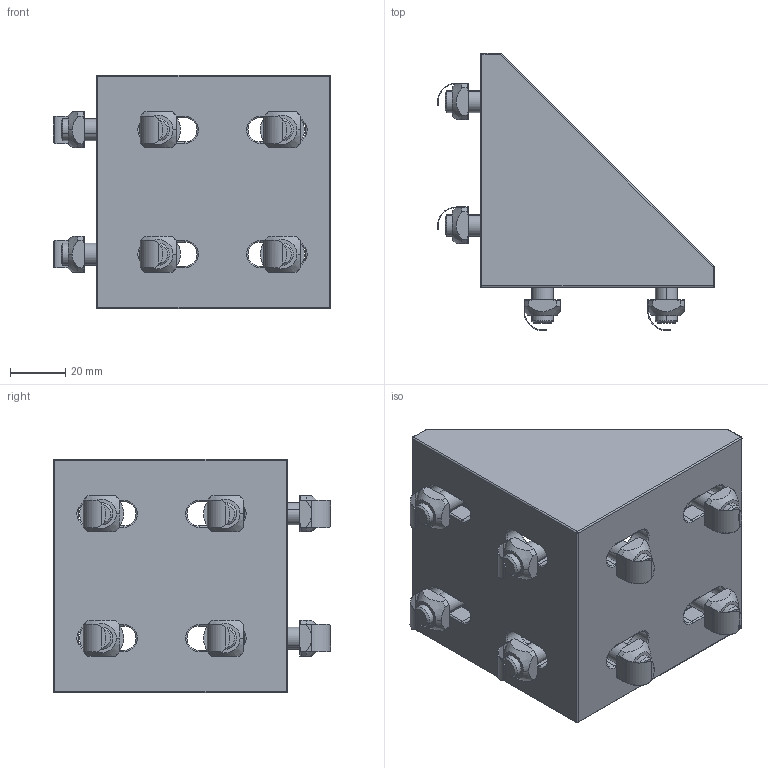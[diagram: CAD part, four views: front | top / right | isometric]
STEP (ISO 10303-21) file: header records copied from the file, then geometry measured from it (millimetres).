
FILE_DESCRIPTION (( 'STEP AP214' ), '1' );
FILE_NAME ('1.3029 Kulma 90.STEP', '2024-01-15T13:53:26', ( '' ), ( '' ), 'SwSTEP 2.0', 'SolidWorks 2024', '' );
FILE_SCHEMA (( 'AUTOMOTIVE_DESIGN' ));
Length unit declared in the file: millimetre
Products named in the file (1): 1.3029 Kulma 90
Bounding box: 100.65 x 100.65 x 85 mm (x, y, z)
Volume: 152329.9 mm3; surface area: 61607.4 mm2
Topology: 25 solids, 25 shells, 683 faces, 1627 edges, 988 vertices
Faces by surface type: plane 354, cylinder 187, cone 72, torus 64, sphere 6
Entity records: 28049 total; most frequent: CARTESIAN_POINT 4417, DIRECTION 3383, ORIENTED_EDGE 3210, EDGE_CURVE 1605, AXIS2_PLACEMENT_3D 1250, VERTEX_POINT 988, VECTOR 883, LINE 883
